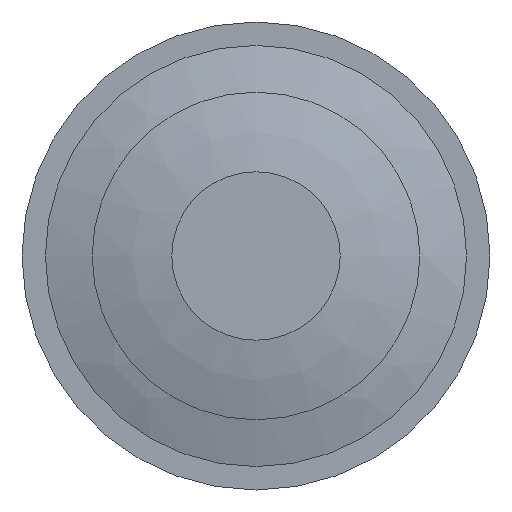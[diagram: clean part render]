
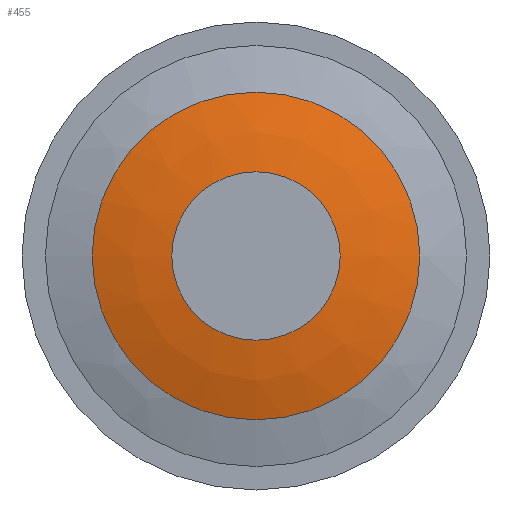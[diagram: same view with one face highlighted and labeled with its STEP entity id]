
A CAD part, front view. The second image highlights one B-rep face of the part: STEP entity #455.
In plain terms, the highlighted free-form (B-spline) face has degree [2, 2] with [3, 9] control points.
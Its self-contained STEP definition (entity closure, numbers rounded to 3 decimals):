
#391=CARTESIAN_POINT('',(3.5,-10.25,0.0));
#392=VERTEX_POINT('',#391);
#393=CARTESIAN_POINT('',(0.,-10.25,0.0));
#394=DIRECTION('',(0.0,-1.0,0.0));
#395=DIRECTION('',(1.0,0.0,0.0));
#396=AXIS2_PLACEMENT_3D('',#393,#394,#395);
#397=CIRCLE('',#396,3.5);
#398=EDGE_CURVE('',#392,#392,#397,.T.);
#406=CARTESIAN_POINT('',(0.,-10.25,3.5));
#407=CARTESIAN_POINT('',(0.,-10.525,2.669));
#408=CARTESIAN_POINT('',(0.,-10.625,1.8));
#409=CARTESIAN_POINT('',(3.5,-10.25,3.5));
#410=CARTESIAN_POINT('',(2.669,-10.525,2.669));
#411=CARTESIAN_POINT('',(1.8,-10.625,1.8));
#412=CARTESIAN_POINT('',(3.5,-10.25,0.));
#413=CARTESIAN_POINT('',(2.669,-10.525,0.));
#414=CARTESIAN_POINT('',(1.8,-10.625,0.));
#415=CARTESIAN_POINT('',(3.5,-10.25,-3.5));
#416=CARTESIAN_POINT('',(2.669,-10.525,-2.669));
#417=CARTESIAN_POINT('',(1.8,-10.625,-1.8));
#418=CARTESIAN_POINT('',(0.,-10.25,-3.5));
#419=CARTESIAN_POINT('',(0.,-10.525,-2.669));
#420=CARTESIAN_POINT('',(0.,-10.625,-1.8));
#421=CARTESIAN_POINT('',(-3.5,-10.25,-3.5));
#422=CARTESIAN_POINT('',(-2.669,-10.525,-2.669));
#423=CARTESIAN_POINT('',(-1.8,-10.625,-1.8));
#424=CARTESIAN_POINT('',(-3.5,-10.25,0.));
#425=CARTESIAN_POINT('',(-2.669,-10.525,0.));
#426=CARTESIAN_POINT('',(-1.8,-10.625,0.));
#427=CARTESIAN_POINT('',(-3.5,-10.25,3.5));
#428=CARTESIAN_POINT('',(-2.669,-10.525,2.669));
#429=CARTESIAN_POINT('',(-1.8,-10.625,1.8));
#430=CARTESIAN_POINT('',(0.,-10.25,3.5));
#431=CARTESIAN_POINT('',(0.,-10.525,2.669));
#432=CARTESIAN_POINT('',(0.,-10.625,1.8));
#440=(BOUNDED_SURFACE()B_SPLINE_SURFACE(2,2,((#406,#409,#412,#415,#418,#421,#424,#427,#430),(#407,#410,#413,#416,#419,#422,#425,#428,#431),(#408,#411,#414,#417,#420,#423,#426,#429,#432)),.UNSPECIFIED.,.F.,.T.,.U.)B_SPLINE_SURFACE_WITH_KNOTS((3,3),(3,2,2,2,3),(1.251,1.456),(0.0,1.571,3.142,4.712,6.283),.UNSPECIFIED.)GEOMETRIC_REPRESENTATION_ITEM()RATIONAL_B_SPLINE_SURFACE(((1.0,0.707,1.0,0.707,1.0,0.707,1.0,0.707,1.0),(0.995,0.703,0.995,0.703,0.995,0.703,0.995,0.703,0.995),(1.0,0.707,1.0,0.707,1.0,0.707,1.0,0.707,1.0)))REPRESENTATION_ITEM('')SURFACE());
#441=CARTESIAN_POINT('',(1.8,-10.625,0.0));
#442=VERTEX_POINT('',#441);
#443=CARTESIAN_POINT('',(0.,-10.625,0.0));
#444=DIRECTION('',(0.0,-1.0,0.0));
#445=DIRECTION('',(1.0,0.0,0.0));
#446=AXIS2_PLACEMENT_3D('',#443,#444,#445);
#447=CIRCLE('',#446,1.8);
#448=EDGE_CURVE('',#442,#442,#447,.T.);
#449=ORIENTED_EDGE('',*,*,#448,.F.);
#450=EDGE_LOOP('',(#449));
#451=FACE_OUTER_BOUND('',#450,.T.);
#452=ORIENTED_EDGE('',*,*,#398,.T.);
#453=EDGE_LOOP('',(#452));
#454=FACE_BOUND('',#453,.T.);
#455=ADVANCED_FACE('',(#451,#454),#440,.T.);
